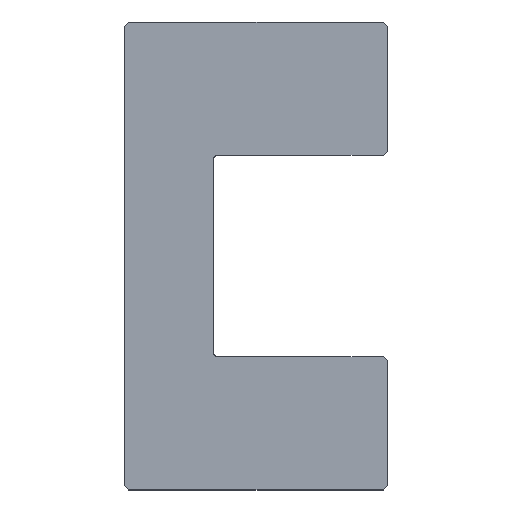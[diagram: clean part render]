
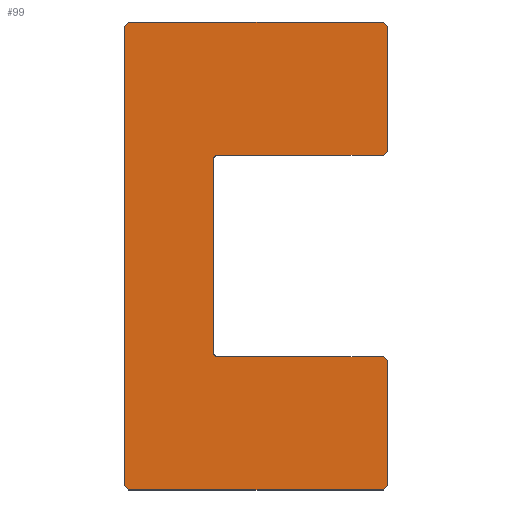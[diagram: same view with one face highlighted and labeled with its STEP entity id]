
A CAD part, top view. The second image highlights one B-rep face of the part: STEP entity #99.
In plain terms, the highlighted planar face has unit normal (0, 0, 1).
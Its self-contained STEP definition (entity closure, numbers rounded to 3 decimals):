
#1 = VERTEX_POINT ( 'NONE', #128 ) ;
#2 = EDGE_CURVE ( 'NONE', #207, #308, #626, .T. ) ;
#12 = CIRCLE ( 'NONE', #113, 0.1 ) ;
#15 = DIRECTION ( 'NONE',  ( 0., -1., 0. ) ) ;
#16 = VERTEX_POINT ( 'NONE', #493 ) ;
#19 = ORIENTED_EDGE ( 'NONE', *, *, #229, .T. ) ;
#21 = VECTOR ( 'NONE', #228, 1000. ) ;
#22 = CARTESIAN_POINT ( 'NONE',  ( 6.4, 0., 0.5 ) ) ;
#24 = ORIENTED_EDGE ( 'NONE', *, *, #268, .T. ) ;
#25 = CARTESIAN_POINT ( 'NONE',  ( 2.2, -3.4, 0.5 ) ) ;
#35 = DIRECTION ( 'NONE',  ( -0.707, 0.707, 0. ) ) ;
#41 = CARTESIAN_POINT ( 'NONE',  ( 6.5, -11.5, 0.5 ) ) ;
#42 = DIRECTION ( 'NONE',  ( -1., 0., 0. ) ) ;
#47 = VECTOR ( 'NONE', #73, 1000. ) ;
#61 = VERTEX_POINT ( 'NONE', #521 ) ;
#62 = DIRECTION ( 'NONE',  ( -1., 0., 0. ) ) ;
#66 = VERTEX_POINT ( 'NONE', #82 ) ;
#69 = VERTEX_POINT ( 'NONE', #304 ) ;
#70 = CARTESIAN_POINT ( 'NONE',  ( 6.4, -11.6, 0.5 ) ) ;
#71 = ORIENTED_EDGE ( 'NONE', *, *, #437, .T. ) ;
#73 = DIRECTION ( 'NONE',  ( 0., 1., 0. ) ) ;
#74 = EDGE_CURVE ( 'NONE', #449, #66, #163, .T. ) ;
#75 = ORIENTED_EDGE ( 'NONE', *, *, #74, .T. ) ;
#77 = ORIENTED_EDGE ( 'NONE', *, *, #392, .T. ) ;
#80 = CARTESIAN_POINT ( 'NONE',  ( 2.2, -8.2, 0.5 ) ) ;
#82 = CARTESIAN_POINT ( 'NONE',  ( 0.1, 0., 0.5 ) ) ;
#85 = LINE ( 'NONE', #363, #400 ) ;
#89 = CARTESIAN_POINT ( 'NONE',  ( 6.5, 0., 0.5 ) ) ;
#92 = DIRECTION ( 'NONE',  ( 1., 0., 0. ) ) ;
#95 = VECTOR ( 'NONE', #187, 1000. ) ;
#96 = AXIS2_PLACEMENT_3D ( 'NONE', #423, #415, #42 ) ;
#98 = LINE ( 'NONE', #89, #203 ) ;
#99 = ADVANCED_FACE ( 'NONE', ( #307 ), #350, .F. ) ;
#107 = DIRECTION ( 'NONE',  ( -1., 0., 0. ) ) ;
#113 = AXIS2_PLACEMENT_3D ( 'NONE', #528, #238, #586 ) ;
#118 = CARTESIAN_POINT ( 'NONE',  ( 0., 0., 0.5 ) ) ;
#124 = LINE ( 'NONE', #579, #202 ) ;
#128 = CARTESIAN_POINT ( 'NONE',  ( 6.5, -0.1, 0.5 ) ) ;
#138 = CARTESIAN_POINT ( 'NONE',  ( 2.2, -8.3, 0.5 ) ) ;
#143 = AXIS2_PLACEMENT_3D ( 'NONE', #118, #559, #107 ) ;
#146 = ORIENTED_EDGE ( 'NONE', *, *, #385, .T. ) ;
#150 = VERTEX_POINT ( 'NONE', #157 ) ;
#157 = CARTESIAN_POINT ( 'NONE',  ( 2.3, -3.3, 0.5 ) ) ;
#161 = EDGE_CURVE ( 'NONE', #199, #230, #380, .T. ) ;
#163 = LINE ( 'NONE', #210, #580 ) ;
#168 = LINE ( 'NONE', #22, #286 ) ;
#183 = DIRECTION ( 'NONE',  ( 0.707, 0.707, 0. ) ) ;
#184 = CARTESIAN_POINT ( 'NONE',  ( 0., -0.1, 0.5 ) ) ;
#187 = DIRECTION ( 'NONE',  ( -0.707, -0.707, 0. ) ) ;
#199 = VERTEX_POINT ( 'NONE', #405 ) ;
#202 = VECTOR ( 'NONE', #317, 1000. ) ;
#203 = VECTOR ( 'NONE', #482, 1000. ) ;
#207 = VERTEX_POINT ( 'NONE', #70 ) ;
#210 = CARTESIAN_POINT ( 'NONE',  ( 0., 0., 0.5 ) ) ;
#219 = CARTESIAN_POINT ( 'NONE',  ( 6.5, -8.4, 0.5 ) ) ;
#220 = VERTEX_POINT ( 'NONE', #461 ) ;
#228 = DIRECTION ( 'NONE',  ( 0., 1., 0. ) ) ;
#229 = EDGE_CURVE ( 'NONE', #569, #492, #617, .T. ) ;
#230 = VERTEX_POINT ( 'NONE', #520 ) ;
#238 = DIRECTION ( 'NONE',  ( 0., 0., -1. ) ) ;
#250 = EDGE_LOOP ( 'NONE', ( #75, #77, #518, #560, #556, #303, #256, #24, #146, #71, #19, #374, #502, #614, #499, #581 ) ) ;
#254 = VECTOR ( 'NONE', #15, 1000. ) ;
#256 = ORIENTED_EDGE ( 'NONE', *, *, #277, .T. ) ;
#260 = VERTEX_POINT ( 'NONE', #478 ) ;
#261 = LINE ( 'NONE', #325, #514 ) ;
#263 = VERTEX_POINT ( 'NONE', #219 ) ;
#267 = LINE ( 'NONE', #138, #369 ) ;
#268 = EDGE_CURVE ( 'NONE', #263, #16, #261, .T. ) ;
#277 = EDGE_CURVE ( 'NONE', #308, #263, #376, .T. ) ;
#278 = DIRECTION ( 'NONE',  ( 0.707, -0.707, 0. ) ) ;
#286 = VECTOR ( 'NONE', #373, 1000. ) ;
#289 = CARTESIAN_POINT ( 'NONE',  ( 6.5, -3.3, 0.5 ) ) ;
#303 = ORIENTED_EDGE ( 'NONE', *, *, #2, .T. ) ;
#304 = CARTESIAN_POINT ( 'NONE',  ( 0.1, -11.6, 0.5 ) ) ;
#307 = FACE_OUTER_BOUND ( 'NONE', #250, .T. ) ;
#308 = VERTEX_POINT ( 'NONE', #427 ) ;
#312 = CARTESIAN_POINT ( 'NONE',  ( 6.5, -8.3, 0.5 ) ) ;
#313 = EDGE_CURVE ( 'NONE', #1, #449, #168, .T. ) ;
#317 = DIRECTION ( 'NONE',  ( 1., 0., 0. ) ) ;
#321 = CARTESIAN_POINT ( 'NONE',  ( 2.2, -3.3, 0.5 ) ) ;
#325 = CARTESIAN_POINT ( 'NONE',  ( 6.4, -8.3, 0.5 ) ) ;
#329 = VECTOR ( 'NONE', #183, 1000. ) ;
#342 = EDGE_CURVE ( 'NONE', #230, #69, #85, .T. ) ;
#350 = PLANE ( 'NONE',  #143 ) ;
#362 = EDGE_CURVE ( 'NONE', #69, #207, #124, .T. ) ;
#363 = CARTESIAN_POINT ( 'NONE',  ( 0.1, -11.6, 0.5 ) ) ;
#369 = VECTOR ( 'NONE', #435, 1000. ) ;
#373 = DIRECTION ( 'NONE',  ( -0.707, 0.707, 0. ) ) ;
#374 = ORIENTED_EDGE ( 'NONE', *, *, #547, .T. ) ;
#376 = LINE ( 'NONE', #312, #47 ) ;
#380 = LINE ( 'NONE', #450, #254 ) ;
#385 = EDGE_CURVE ( 'NONE', #16, #260, #267, .T. ) ;
#388 = CARTESIAN_POINT ( 'NONE',  ( 6.4, 0., 0.5 ) ) ;
#392 = EDGE_CURVE ( 'NONE', #66, #199, #628, .T. ) ;
#400 = VECTOR ( 'NONE', #278, 1000. ) ;
#405 = CARTESIAN_POINT ( 'NONE',  ( 0., -0.1, 0.5 ) ) ;
#410 = EDGE_CURVE ( 'NONE', #150, #61, #531, .T. ) ;
#415 = DIRECTION ( 'NONE',  ( 0., 0., -1. ) ) ;
#423 = CARTESIAN_POINT ( 'NONE',  ( 2.3, -3.4, 0.5 ) ) ;
#427 = CARTESIAN_POINT ( 'NONE',  ( 6.5, -11.5, 0.5 ) ) ;
#429 = CARTESIAN_POINT ( 'NONE',  ( 6.5, -3.2, 0.5 ) ) ;
#435 = DIRECTION ( 'NONE',  ( -1., 0., 0. ) ) ;
#437 = EDGE_CURVE ( 'NONE', #260, #569, #12, .T. ) ;
#444 = CIRCLE ( 'NONE', #96, 0.1 ) ;
#449 = VERTEX_POINT ( 'NONE', #388 ) ;
#450 = CARTESIAN_POINT ( 'NONE',  ( 0., -11.6, 0.5 ) ) ;
#454 = VECTOR ( 'NONE', #584, 1000. ) ;
#460 = EDGE_CURVE ( 'NONE', #220, #1, #98, .T. ) ;
#461 = CARTESIAN_POINT ( 'NONE',  ( 6.5, -3.2, 0.5 ) ) ;
#478 = CARTESIAN_POINT ( 'NONE',  ( 2.3, -8.3, 0.5 ) ) ;
#480 = LINE ( 'NONE', #429, #329 ) ;
#482 = DIRECTION ( 'NONE',  ( 0., 1., 0. ) ) ;
#492 = VERTEX_POINT ( 'NONE', #25 ) ;
#493 = CARTESIAN_POINT ( 'NONE',  ( 6.4, -8.3, 0.5 ) ) ;
#499 = ORIENTED_EDGE ( 'NONE', *, *, #460, .T. ) ;
#502 = ORIENTED_EDGE ( 'NONE', *, *, #410, .T. ) ;
#514 = VECTOR ( 'NONE', #35, 1000. ) ;
#518 = ORIENTED_EDGE ( 'NONE', *, *, #161, .T. ) ;
#520 = CARTESIAN_POINT ( 'NONE',  ( 0., -11.5, 0.5 ) ) ;
#521 = CARTESIAN_POINT ( 'NONE',  ( 6.4, -3.3, 0.5 ) ) ;
#528 = CARTESIAN_POINT ( 'NONE',  ( 2.3, -8.2, 0.5 ) ) ;
#531 = LINE ( 'NONE', #289, #568 ) ;
#547 = EDGE_CURVE ( 'NONE', #492, #150, #444, .T. ) ;
#556 = ORIENTED_EDGE ( 'NONE', *, *, #362, .T. ) ;
#559 = DIRECTION ( 'NONE',  ( 0., 0., -1. ) ) ;
#560 = ORIENTED_EDGE ( 'NONE', *, *, #342, .T. ) ;
#568 = VECTOR ( 'NONE', #92, 1000. ) ;
#569 = VERTEX_POINT ( 'NONE', #80 ) ;
#579 = CARTESIAN_POINT ( 'NONE',  ( 6.5, -11.6, 0.5 ) ) ;
#580 = VECTOR ( 'NONE', #62, 1000. ) ;
#581 = ORIENTED_EDGE ( 'NONE', *, *, #313, .T. ) ;
#584 = DIRECTION ( 'NONE',  ( 0.707, 0.707, 0. ) ) ;
#586 = DIRECTION ( 'NONE',  ( -1., 0., 0. ) ) ;
#612 = EDGE_CURVE ( 'NONE', #61, #220, #480, .T. ) ;
#614 = ORIENTED_EDGE ( 'NONE', *, *, #612, .T. ) ;
#617 = LINE ( 'NONE', #321, #21 ) ;
#626 = LINE ( 'NONE', #41, #454 ) ;
#628 = LINE ( 'NONE', #184, #95 ) ;
